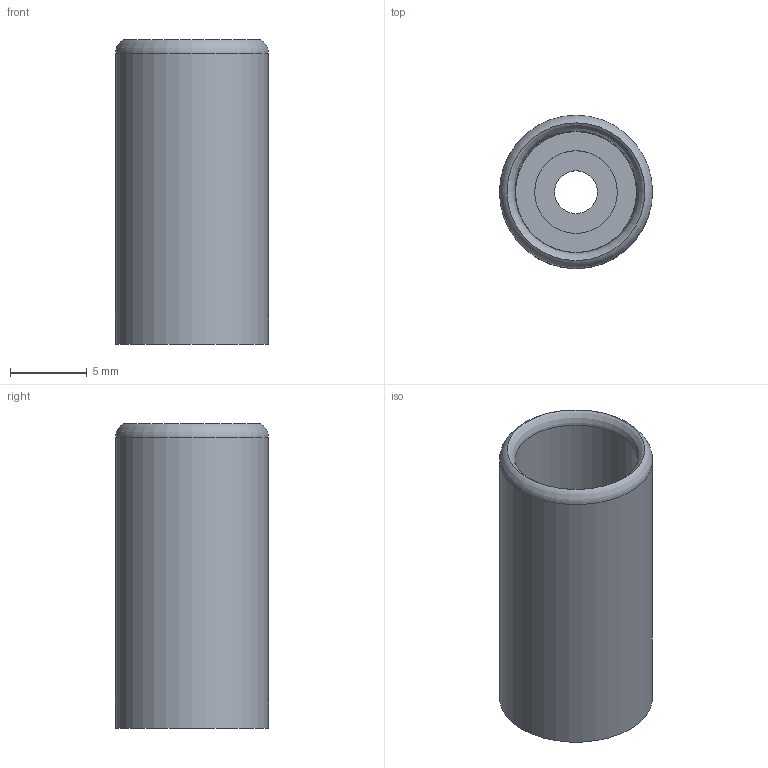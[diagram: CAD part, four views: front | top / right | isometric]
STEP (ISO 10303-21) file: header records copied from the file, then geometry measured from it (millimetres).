
FILE_DESCRIPTION(('STEP AP242'), '1');
FILE_NAME('êðåï22', '', ('UNSPECIFIED'), ('UNSPECIFIED'), 'C3D Converter', 'C3D Toolkit', '');
FILE_SCHEMA(('AP242_MANAGED_MODEL_BASED_3D_ENGINEERING_MIM_LF { 1 0 10303 442 1 1 4 }'));
Length unit declared in the file: millimetre
Bounding box: 10 x 10 x 19.87 mm (x, y, z)
Volume: 809.4 mm3; surface area: 1310.1 mm2
Topology: 1 solids, 1 shells, 11 faces, 18 edges, 11 vertices
Faces by surface type: cylinder 5, plane 4, torus 2
Full cylindrical faces by diameter (mm): 2.8 x1, 5.4 x1, 7.9 x1, 8 x1, 10 x1
Entity records: 356 total; most frequent: DIRECTION 46, CARTESIAN_POINT 34, AXIS2_PLACEMENT_3D 23, EDGE_LOOP 22, ORIENTED_EDGE 22, FACE_OUTER_BOUND 14, COLOUR_RGB 12, FILL_AREA_STYLE_COLOUR 12
